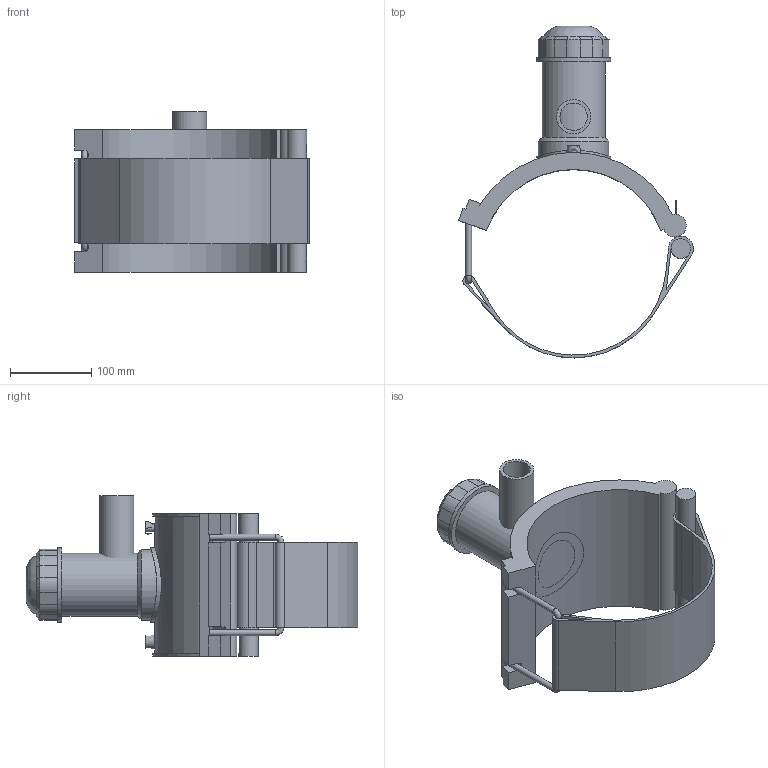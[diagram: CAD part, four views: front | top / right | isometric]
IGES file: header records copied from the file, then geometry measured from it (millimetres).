
Global section: file name: 5963DBP3080013.ipt; native system: Autodesk Inventor 2019; preprocessor: unknown; author: KIM; date: 20210830.101702; units: inch
Bounding box: 289.75 x 409.37 x 197.99 mm (x, y, z)
Volume: 2009204.8 mm3; surface area: 389481.2 mm2
Topology: 4 solids, 4 shells, 125 faces, 305 edges, 196 vertices
Faces by surface type: plane 69, cylinder 30, revolution 13, cone 13
Full cylindrical faces by diameter (mm): 4 x2, 7.325 x2, 24.123 x1, 42.1 x1, 77.826 x1, 86.982 x1, 91.56 x2
